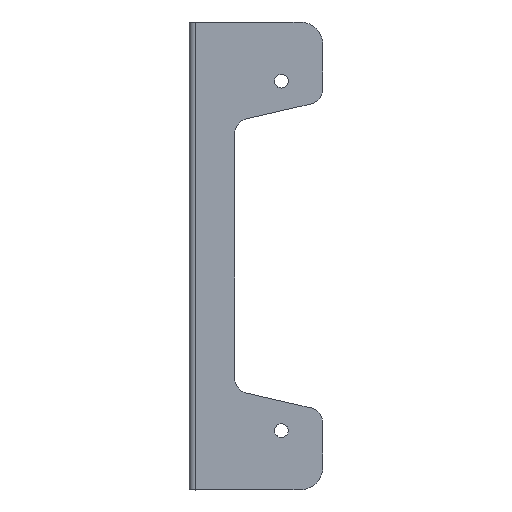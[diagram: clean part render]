
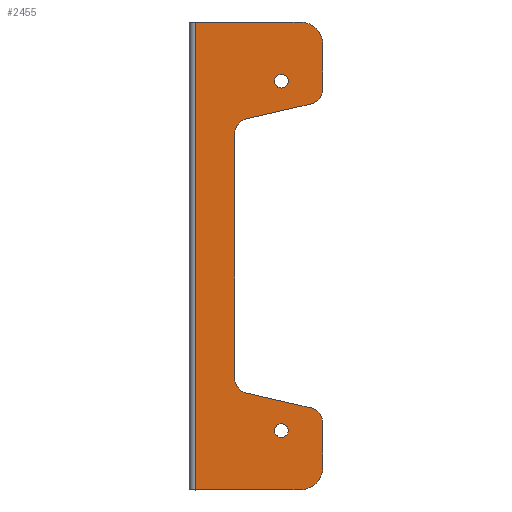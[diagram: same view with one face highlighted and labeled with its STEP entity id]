
A CAD part, top view. The second image highlights one B-rep face of the part: STEP entity #2455.
In plain terms, the highlighted planar face has unit normal (0, 0, 1).
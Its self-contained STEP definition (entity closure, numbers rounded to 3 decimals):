
#1613=AXIS2_PLACEMENT_3D('Circle Axis2P3D',#1611,#1612,$) ;
#1710=AXIS2_PLACEMENT_3D('Circle Axis2P3D',#1708,#1709,$) ;
#1765=AXIS2_PLACEMENT_3D('Circle Axis2P3D',#1763,#1764,$) ;
#1832=AXIS2_PLACEMENT_3D('Circle Axis2P3D',#1830,#1831,$) ;
#1849=AXIS2_PLACEMENT_3D('Circle Axis2P3D',#1847,#1848,$) ;
#1935=AXIS2_PLACEMENT_3D('Circle Axis2P3D',#1933,#1934,$) ;
#2361=AXIS2_PLACEMENT_3D('Circle Axis2P3D',#2359,#2360,$) ;
#2390=AXIS2_PLACEMENT_3D('Circle Axis2P3D',#2388,#2389,$) ;
#2410=AXIS2_PLACEMENT_3D('Plane Axis2P3D',#2407,#2408,#2409) ;
#1570=CARTESIAN_POINT('Vertex',(1072.75,-675.251,82.)) ;
#1573=CARTESIAN_POINT('Line Origine',(1093.999,-680.157,82.)) ;
#1577=CARTESIAN_POINT('Vertex',(1115.249,-685.063,82.)) ;
#1611=CARTESIAN_POINT('Axis2P3D Location',(1112.999,-694.807,82.)) ;
#1615=CARTESIAN_POINT('Vertex',(1122.999,-694.807,82.)) ;
#1635=CARTESIAN_POINT('Line Origine',(1122.999,-709.403,82.)) ;
#1639=CARTESIAN_POINT('Vertex',(1122.999,-723.999,82.)) ;
#1674=CARTESIAN_POINT('Vertex',(1122.999,-445.999,82.)) ;
#1677=CARTESIAN_POINT('Line Origine',(1122.999,-460.595,82.)) ;
#1681=CARTESIAN_POINT('Vertex',(1122.999,-475.191,82.)) ;
#1708=CARTESIAN_POINT('Axis2P3D Location',(1112.999,-475.191,82.)) ;
#1712=CARTESIAN_POINT('Vertex',(1115.249,-484.935,82.)) ;
#1736=CARTESIAN_POINT('Vertex',(1072.75,-494.747,82.)) ;
#1746=CARTESIAN_POINT('Line Origine',(1093.999,-489.841,82.)) ;
#1763=CARTESIAN_POINT('Axis2P3D Location',(1074.999,-504.49,82.)) ;
#1767=CARTESIAN_POINT('Vertex',(1064.999,-504.49,82.)) ;
#1800=CARTESIAN_POINT('Vertex',(1064.999,-665.508,82.)) ;
#1808=CARTESIAN_POINT('Line Origine',(1064.999,-584.999,82.)) ;
#1830=CARTESIAN_POINT('Axis2P3D Location',(1074.999,-665.508,82.)) ;
#1847=CARTESIAN_POINT('Axis2P3D Location',(1095.716,-469.998,82.)) ;
#1851=CARTESIAN_POINT('Vertex',(1091.216,-469.998,82.)) ;
#1853=CARTESIAN_POINT('Vertex',(1100.216,-469.998,82.)) ;
#1888=CARTESIAN_POINT('Control Point',(1091.216,-469.998,82.)) ;
#1889=CARTESIAN_POINT('Control Point',(1091.216,-469.291,82.)) ;
#1890=CARTESIAN_POINT('Control Point',(1091.355,-468.584,82.)) ;
#1891=CARTESIAN_POINT('Control Point',(1091.633,-467.914,82.)) ;
#1892=CARTESIAN_POINT('Control Point',(1092.436,-466.718,82.)) ;
#1893=CARTESIAN_POINT('Control Point',(1093.632,-465.915,82.)) ;
#1894=CARTESIAN_POINT('Control Point',(1094.303,-465.637,82.)) ;
#1895=CARTESIAN_POINT('Control Point',(1095.716,-465.359,82.)) ;
#1896=CARTESIAN_POINT('Control Point',(1097.13,-465.637,82.)) ;
#1897=CARTESIAN_POINT('Control Point',(1097.8,-465.915,82.)) ;
#1898=CARTESIAN_POINT('Control Point',(1098.996,-466.718,82.)) ;
#1899=CARTESIAN_POINT('Control Point',(1099.8,-467.914,82.)) ;
#1900=CARTESIAN_POINT('Control Point',(1100.077,-468.584,82.)) ;
#1901=CARTESIAN_POINT('Control Point',(1100.216,-469.291,82.)) ;
#1902=CARTESIAN_POINT('Control Point',(1100.216,-469.998,82.)) ;
#1933=CARTESIAN_POINT('Axis2P3D Location',(1095.716,-699.996,82.)) ;
#1937=CARTESIAN_POINT('Vertex',(1091.216,-699.996,82.)) ;
#1939=CARTESIAN_POINT('Vertex',(1100.216,-699.996,82.)) ;
#1974=CARTESIAN_POINT('Control Point',(1091.216,-699.996,82.)) ;
#1975=CARTESIAN_POINT('Control Point',(1091.216,-699.29,82.)) ;
#1976=CARTESIAN_POINT('Control Point',(1091.355,-698.583,82.)) ;
#1977=CARTESIAN_POINT('Control Point',(1091.633,-697.912,82.)) ;
#1978=CARTESIAN_POINT('Control Point',(1092.436,-696.716,82.)) ;
#1979=CARTESIAN_POINT('Control Point',(1093.632,-695.913,82.)) ;
#1980=CARTESIAN_POINT('Control Point',(1094.303,-695.635,82.)) ;
#1981=CARTESIAN_POINT('Control Point',(1095.716,-695.358,82.)) ;
#1982=CARTESIAN_POINT('Control Point',(1097.13,-695.635,82.)) ;
#1983=CARTESIAN_POINT('Control Point',(1097.8,-695.913,82.)) ;
#1984=CARTESIAN_POINT('Control Point',(1098.996,-696.716,82.)) ;
#1985=CARTESIAN_POINT('Control Point',(1099.8,-697.912,82.)) ;
#1986=CARTESIAN_POINT('Control Point',(1100.077,-698.583,82.)) ;
#1987=CARTESIAN_POINT('Control Point',(1100.216,-699.29,82.)) ;
#1988=CARTESIAN_POINT('Control Point',(1100.216,-699.996,82.)) ;
#2354=CARTESIAN_POINT('Vertex',(1107.999,-430.999,82.)) ;
#2359=CARTESIAN_POINT('Axis2P3D Location',(1107.999,-445.999,82.)) ;
#2388=CARTESIAN_POINT('Axis2P3D Location',(1107.999,-723.999,82.)) ;
#2392=CARTESIAN_POINT('Vertex',(1107.999,-738.999,82.)) ;
#2407=CARTESIAN_POINT('Axis2P3D Location',(1599.999,0.001,82.)) ;
#2412=CARTESIAN_POINT('Line Origine',(1073.499,-430.999,82.)) ;
#2416=CARTESIAN_POINT('Vertex',(1038.999,-430.999,82.)) ;
#2419=CARTESIAN_POINT('Line Origine',(1038.999,-584.999,82.)) ;
#2423=CARTESIAN_POINT('Vertex',(1038.999,-738.999,82.)) ;
#2426=CARTESIAN_POINT('Line Origine',(1073.499,-738.999,82.)) ;
#1574=DIRECTION('Vector Direction',(-0.974,0.225,0.)) ;
#1612=DIRECTION('Axis2P3D Direction',(0.,0.,1.)) ;
#1636=DIRECTION('Vector Direction',(0.,1.,0.)) ;
#1678=DIRECTION('Vector Direction',(0.,1.,0.)) ;
#1709=DIRECTION('Axis2P3D Direction',(0.,0.,1.)) ;
#1747=DIRECTION('Vector Direction',(0.974,0.225,0.)) ;
#1764=DIRECTION('Axis2P3D Direction',(0.,0.,1.)) ;
#1809=DIRECTION('Vector Direction',(0.,-1.,0.)) ;
#1831=DIRECTION('Axis2P3D Direction',(0.,0.,1.)) ;
#1848=DIRECTION('Axis2P3D Direction',(0.,0.,-1.)) ;
#1934=DIRECTION('Axis2P3D Direction',(0.,0.,-1.)) ;
#2360=DIRECTION('Axis2P3D Direction',(0.,0.,-1.)) ;
#2389=DIRECTION('Axis2P3D Direction',(0.,0.,1.)) ;
#2408=DIRECTION('Axis2P3D Direction',(0.,0.,1.)) ;
#2409=DIRECTION('Axis2P3D XDirection',(1.,0.,0.)) ;
#2413=DIRECTION('Vector Direction',(-1.,0.,0.)) ;
#2420=DIRECTION('Vector Direction',(0.,1.,0.)) ;
#2427=DIRECTION('Vector Direction',(-1.,0.,0.)) ;
#1575=VECTOR('Line Direction',#1574,1.) ;
#1637=VECTOR('Line Direction',#1636,1.) ;
#1679=VECTOR('Line Direction',#1678,1.) ;
#1748=VECTOR('Line Direction',#1747,1.) ;
#1810=VECTOR('Line Direction',#1809,1.) ;
#2414=VECTOR('Line Direction',#2413,1.) ;
#2421=VECTOR('Line Direction',#2420,1.) ;
#2428=VECTOR('Line Direction',#2427,1.) ;
#2432=ORIENTED_EDGE('',*,*,#1834,.T.) ;
#2433=ORIENTED_EDGE('',*,*,#1812,.F.) ;
#2434=ORIENTED_EDGE('',*,*,#1769,.T.) ;
#2435=ORIENTED_EDGE('',*,*,#1750,.T.) ;
#2436=ORIENTED_EDGE('',*,*,#1714,.F.) ;
#2437=ORIENTED_EDGE('',*,*,#1683,.F.) ;
#2438=ORIENTED_EDGE('',*,*,#2363,.T.) ;
#2439=ORIENTED_EDGE('',*,*,#2418,.F.) ;
#2440=ORIENTED_EDGE('',*,*,#2425,.T.) ;
#2441=ORIENTED_EDGE('',*,*,#2430,.T.) ;
#2442=ORIENTED_EDGE('',*,*,#2394,.F.) ;
#2443=ORIENTED_EDGE('',*,*,#1641,.F.) ;
#2444=ORIENTED_EDGE('',*,*,#1617,.F.) ;
#2445=ORIENTED_EDGE('',*,*,#1579,.T.) ;
#2448=ORIENTED_EDGE('',*,*,#1855,.F.) ;
#2449=ORIENTED_EDGE('',*,*,#1903,.F.) ;
#2452=ORIENTED_EDGE('',*,*,#1941,.F.) ;
#2453=ORIENTED_EDGE('',*,*,#1989,.F.) ;
#2450=FACE_BOUND('',#2447,.T.) ;
#2454=FACE_BOUND('',#2451,.T.) ;
#2455=ADVANCED_FACE('680.2\\interface-2.2.1\\\X2\51E04F554F53\X0\.36',(#2446,#2450,#2454),#2411,.T.) ;
#1887=B_SPLINE_CURVE_WITH_KNOTS('',5,(#1888,#1889,#1890,#1891,#1892,#1893,#1894,#1895,#1896,#1897,#1898,#1899,#1900,#1901,#1902),.UNSPECIFIED.,.F.,.U.,(6,3,3,3,6),(-7.069,-3.534,0.,3.534,7.069),.UNSPECIFIED.) ;
#1973=B_SPLINE_CURVE_WITH_KNOTS('',5,(#1974,#1975,#1976,#1977,#1978,#1979,#1980,#1981,#1982,#1983,#1984,#1985,#1986,#1987,#1988),.UNSPECIFIED.,.F.,.U.,(6,3,3,3,6),(-7.069,-3.534,0.,3.534,7.069),.UNSPECIFIED.) ;
#1614=CIRCLE('generated circle',#1613,10.) ;
#1711=CIRCLE('generated circle',#1710,10.) ;
#1766=CIRCLE('generated circle',#1765,10.) ;
#1833=CIRCLE('generated circle',#1832,10.) ;
#1850=CIRCLE('generated circle',#1849,4.5) ;
#1936=CIRCLE('generated circle',#1935,4.5) ;
#2362=CIRCLE('generated circle',#2361,15.) ;
#2391=CIRCLE('generated circle',#2390,15.) ;
#1579=EDGE_CURVE('',#1578,#1571,#1576,.T.) ;
#1617=EDGE_CURVE('',#1578,#1616,#1614,.F.) ;
#1641=EDGE_CURVE('',#1616,#1640,#1638,.F.) ;
#1683=EDGE_CURVE('',#1675,#1682,#1680,.F.) ;
#1714=EDGE_CURVE('',#1682,#1713,#1711,.F.) ;
#1750=EDGE_CURVE('',#1737,#1713,#1749,.T.) ;
#1769=EDGE_CURVE('',#1768,#1737,#1766,.F.) ;
#1812=EDGE_CURVE('',#1768,#1801,#1811,.T.) ;
#1834=EDGE_CURVE('',#1571,#1801,#1833,.F.) ;
#1855=EDGE_CURVE('',#1852,#1854,#1850,.F.) ;
#1903=EDGE_CURVE('',#1854,#1852,#1887,.F.) ;
#1941=EDGE_CURVE('',#1938,#1940,#1936,.F.) ;
#1989=EDGE_CURVE('',#1940,#1938,#1973,.F.) ;
#2363=EDGE_CURVE('',#1675,#2355,#2362,.F.) ;
#2394=EDGE_CURVE('',#1640,#2393,#2391,.F.) ;
#2418=EDGE_CURVE('',#2417,#2355,#2415,.F.) ;
#2425=EDGE_CURVE('',#2417,#2424,#2422,.F.) ;
#2430=EDGE_CURVE('',#2424,#2393,#2429,.F.) ;
#2431=EDGE_LOOP('',(#2432,#2433,#2434,#2435,#2436,#2437,#2438,#2439,#2440,#2441,#2442,#2443,#2444,#2445)) ;
#2447=EDGE_LOOP('',(#2448,#2449)) ;
#2451=EDGE_LOOP('',(#2452,#2453)) ;
#2446=FACE_OUTER_BOUND('',#2431,.T.) ;
#1576=LINE('Line',#1573,#1575) ;
#1638=LINE('Line',#1635,#1637) ;
#1680=LINE('Line',#1677,#1679) ;
#1749=LINE('Line',#1746,#1748) ;
#1811=LINE('Line',#1808,#1810) ;
#2415=LINE('Line',#2412,#2414) ;
#2422=LINE('Line',#2419,#2421) ;
#2429=LINE('Line',#2426,#2428) ;
#2411=PLANE('Plane',#2410) ;
#1571=VERTEX_POINT('',#1570) ;
#1578=VERTEX_POINT('',#1577) ;
#1616=VERTEX_POINT('',#1615) ;
#1640=VERTEX_POINT('',#1639) ;
#1675=VERTEX_POINT('',#1674) ;
#1682=VERTEX_POINT('',#1681) ;
#1713=VERTEX_POINT('',#1712) ;
#1737=VERTEX_POINT('',#1736) ;
#1768=VERTEX_POINT('',#1767) ;
#1801=VERTEX_POINT('',#1800) ;
#1852=VERTEX_POINT('',#1851) ;
#1854=VERTEX_POINT('',#1853) ;
#1938=VERTEX_POINT('',#1937) ;
#1940=VERTEX_POINT('',#1939) ;
#2355=VERTEX_POINT('',#2354) ;
#2393=VERTEX_POINT('',#2392) ;
#2417=VERTEX_POINT('',#2416) ;
#2424=VERTEX_POINT('',#2423) ;
